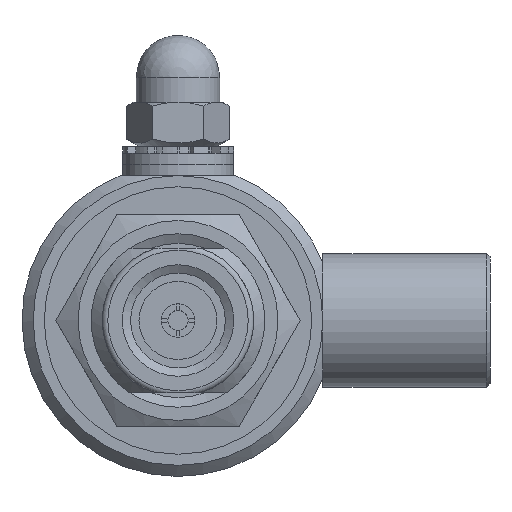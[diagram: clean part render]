
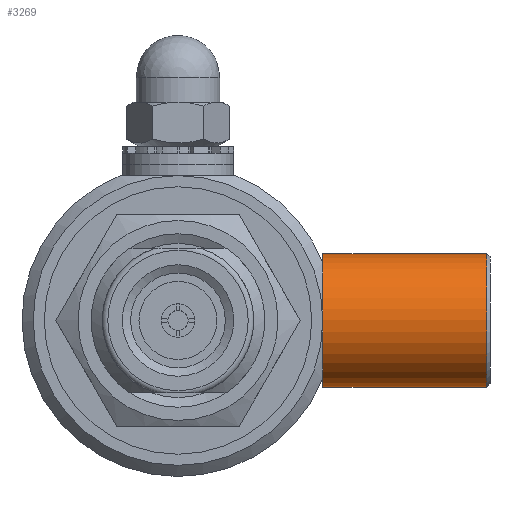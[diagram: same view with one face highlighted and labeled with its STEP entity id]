
A CAD part, left-side view. The second image highlights one B-rep face of the part: STEP entity #3269.
In plain terms, the highlighted cylindrical face has radius 6 mm (diameter 12 mm), a full revolution.
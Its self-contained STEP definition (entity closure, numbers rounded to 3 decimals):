
#251=CYLINDRICAL_SURFACE('',#3614,6.);
#331=FACE_OUTER_BOUND('',#532,.T.);
#532=EDGE_LOOP('',(#2260,#2261,#2262,#2263,#2264,#2265,#2266,#2267));
#757=LINE('',#5130,#996);
#996=VECTOR('',#4046,6.);
#1235=CIRCLE('',#3613,6.);
#1236=CIRCLE('',#3615,6.);
#1237=CIRCLE('',#3616,6.);
#1238=CIRCLE('',#3617,6.);
#1239=CIRCLE('',#3618,6.);
#1240=CIRCLE('',#3619,6.);
#1444=VERTEX_POINT('',#5125);
#1445=VERTEX_POINT('',#5129);
#1446=VERTEX_POINT('',#5131);
#1447=VERTEX_POINT('',#5133);
#1448=VERTEX_POINT('',#5135);
#1449=VERTEX_POINT('',#5137);
#1765=EDGE_CURVE('',#1444,#1444,#1235,.T.);
#1766=EDGE_CURVE('',#1444,#1445,#757,.T.);
#1767=EDGE_CURVE('',#1446,#1445,#1236,.T.);
#1768=EDGE_CURVE('',#1447,#1446,#1237,.T.);
#1769=EDGE_CURVE('',#1448,#1447,#1238,.T.);
#1770=EDGE_CURVE('',#1449,#1448,#1239,.T.);
#1771=EDGE_CURVE('',#1445,#1449,#1240,.T.);
#2260=ORIENTED_EDGE('',*,*,#1765,.F.);
#2261=ORIENTED_EDGE('',*,*,#1766,.T.);
#2262=ORIENTED_EDGE('',*,*,#1767,.F.);
#2263=ORIENTED_EDGE('',*,*,#1768,.F.);
#2264=ORIENTED_EDGE('',*,*,#1769,.F.);
#2265=ORIENTED_EDGE('',*,*,#1770,.F.);
#2266=ORIENTED_EDGE('',*,*,#1771,.F.);
#2267=ORIENTED_EDGE('',*,*,#1766,.F.);
#3269=ADVANCED_FACE('',(#331),#251,.T.);
#3613=AXIS2_PLACEMENT_3D('',#5127,#4042,#4043);
#3614=AXIS2_PLACEMENT_3D('',#5128,#4044,#4045);
#3615=AXIS2_PLACEMENT_3D('',#5132,#4047,#4048);
#3616=AXIS2_PLACEMENT_3D('',#5134,#4049,#4050);
#3617=AXIS2_PLACEMENT_3D('',#5136,#4051,#4052);
#3618=AXIS2_PLACEMENT_3D('',#5138,#4053,#4054);
#3619=AXIS2_PLACEMENT_3D('',#5139,#4055,#4056);
#4042=DIRECTION('center_axis',(0.,-1.,0.));
#4043=DIRECTION('ref_axis',(-1.,0.,0.));
#4044=DIRECTION('center_axis',(0.,-1.,0.));
#4045=DIRECTION('ref_axis',(-1.,0.,0.));
#4046=DIRECTION('',(0.,1.,0.));
#4047=DIRECTION('center_axis',(0.,1.,0.));
#4048=DIRECTION('ref_axis',(-1.,0.,0.));
#4049=DIRECTION('center_axis',(0.,1.,0.));
#4050=DIRECTION('ref_axis',(-1.,0.,0.));
#4051=DIRECTION('center_axis',(0.,1.,0.));
#4052=DIRECTION('ref_axis',(-1.,0.,0.));
#4053=DIRECTION('center_axis',(0.,1.,0.));
#4054=DIRECTION('ref_axis',(-1.,0.,0.));
#4055=DIRECTION('center_axis',(0.,1.,0.));
#4056=DIRECTION('ref_axis',(-1.,0.,0.));
#5125=CARTESIAN_POINT('',(40.,-27.7,0.));
#5127=CARTESIAN_POINT('Origin',(34.,-27.7,0.));
#5128=CARTESIAN_POINT('Origin',(34.,-13.,0.));
#5129=CARTESIAN_POINT('',(40.,-13.,0.));
#5130=CARTESIAN_POINT('',(40.,-13.,0.));
#5131=CARTESIAN_POINT('',(37.,-13.,5.196));
#5132=CARTESIAN_POINT('Origin',(34.,-13.,0.));
#5133=CARTESIAN_POINT('',(31.,-13.,5.196));
#5134=CARTESIAN_POINT('Origin',(34.,-13.,0.));
#5135=CARTESIAN_POINT('',(31.,-13.,-5.196));
#5136=CARTESIAN_POINT('Origin',(34.,-13.,0.));
#5137=CARTESIAN_POINT('',(37.,-13.,-5.196));
#5138=CARTESIAN_POINT('Origin',(34.,-13.,0.));
#5139=CARTESIAN_POINT('Origin',(34.,-13.,0.));
